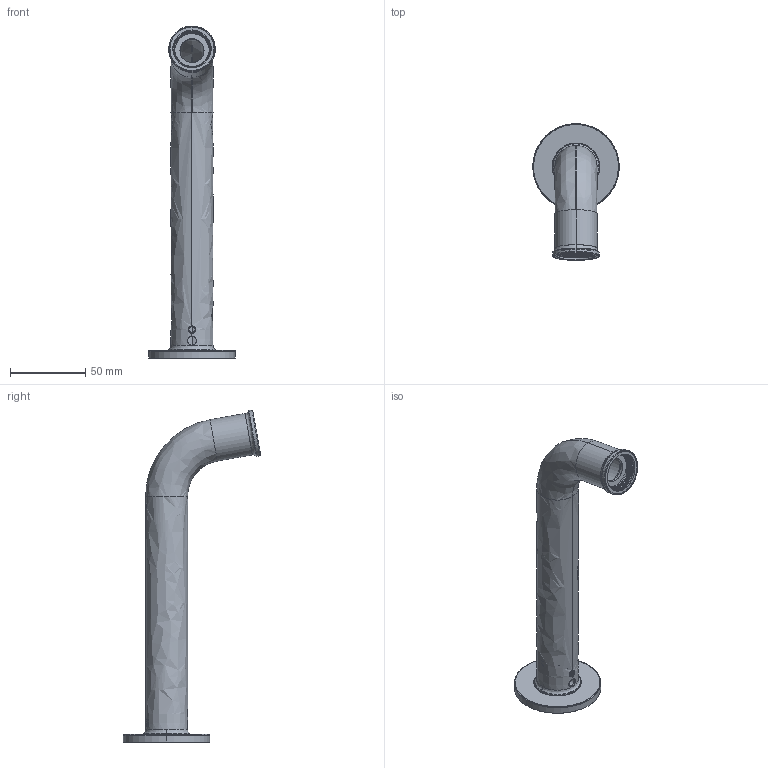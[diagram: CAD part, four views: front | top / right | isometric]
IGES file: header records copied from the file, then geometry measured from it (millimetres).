
Start section: SolidWorks IGES file using analytic representation for surfaces
Global section: file name: C:\Users\ccai\Desktop\CeliaC\Projects\0731-ADHOC-02292 Netural Files\000sku_AU80SERIES_\sku_au80series_igs.IGS; native system: SolidWorks 2023; preprocessor: SolidWorks 2023; author: ccai; date: 240724.162521; units: millimetre
Bounding box: 57.5 x 91.36 x 221.19 mm (x, y, z)
Surface area: 56294.9 mm2 (no closed solid volume)
Topology: 0 solids, 0 shells, 258 faces, 5330 edges, 5330 vertices
Faces by surface type: revolution 130, bspline 128
